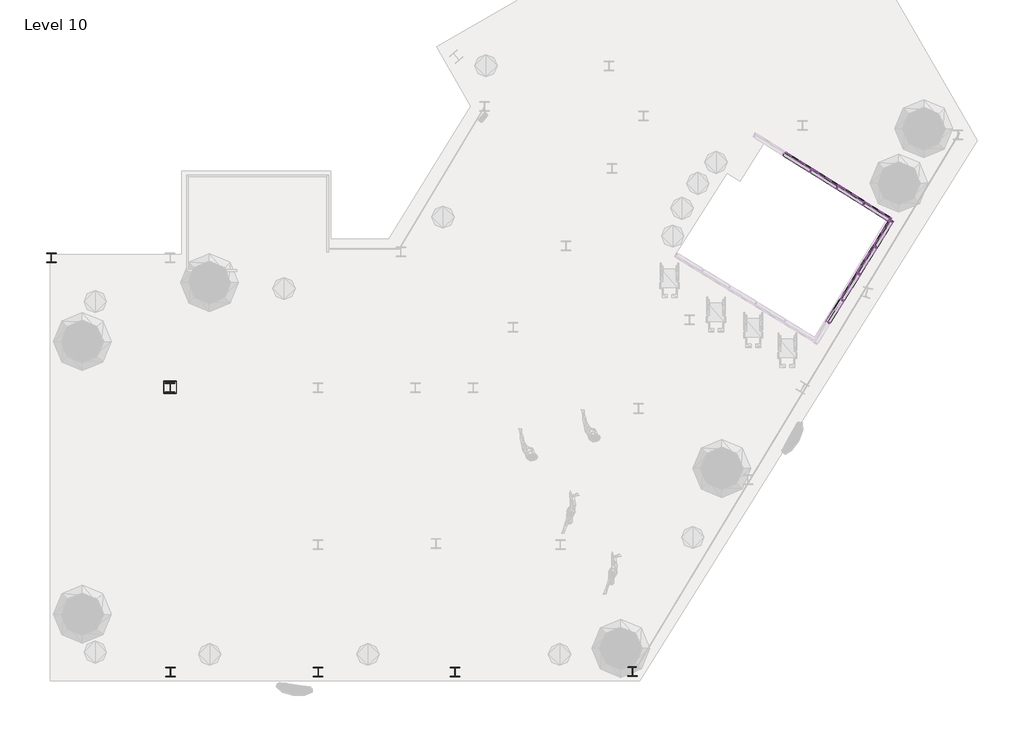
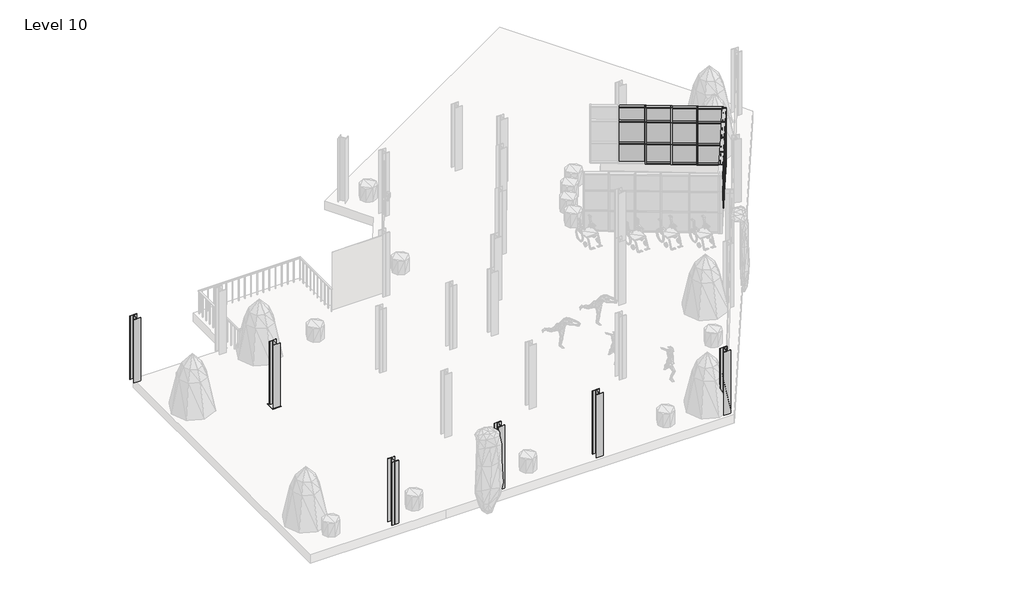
# One storey, part 2 of 3: 56 members, 21 plates, 6 columns, 2 slabs.
"""IFC4 building model written with IfcOpenShell, lengths in millimetres."""

from ifc_helpers import new_model, si_unit, point, frame, frame_2d, origin, place, context, project, spatial, polyline, circle_curve, trimmed, segment, composite_curve, outline, extrude, faceted_brep, transform, mapped, element, save
from components import uc_universal_columns_column_uc305x305x97_d4764252, rectangular_mullion_50x150mm_5f7edc95, rectangular_mullion_50x150mm_20fcdd90, rectangular_mullion_50x150mm_679d726c, rectangular_mullion_50x150mm_bc23d78e, rectangular_mullion_50x150mm_a053b0ca, rectangular_mullion_50x150mm_ca4df42b, rectangular_mullion_50x150mm_2accf0b9, rectangular_mullion_50x150mm_12a430f9, rectangular_mullion_50x150mm_56d806cb, rectangular_mullion_50x150mm_fe9a7969, rectangular_mullion_50x150mm_e1d0520d, rectangular_mullion_50x150mm_eeb28396, rectangular_mullion_50x150mm_6334cb14, rectangular_mullion_50x150mm_1117b5a3, rectangular_mullion_50x150mm_5dbc20ba, rectangular_mullion_50x150mm_edda5b16, rectangular_mullion_50x150mm_e5c03652, rectangular_mullion_50x150mm_65839f64, rectangular_mullion_50x150mm_8fa374aa, rectangular_mullion_50x150mm_e5e7be45, rectangular_mullion_50x150mm_fc7273ca, rectangular_mullion_50x150mm_75b956b0, rectangular_mullion_50x150mm_16176ea9, rectangular_mullion_50x150mm_aeccdc6b, rectangular_mullion_50x150mm_4bf38f89, rectangular_mullion_50x150mm_1ad0b32d, system_panel_glazed_fdfe3bbe, system_panel_glazed_e81f12e8, system_panel_glazed_04ab99c2, system_panel_glazed_16182f7a, system_panel_glazed_1fbc7b21, system_panel_glazed_3a3d5351, system_panel_glazed_2b726c50, system_panel_glazed_9b583dbe, system_panel_glazed_ff157f7a, system_panel_glazed_6ffd8063, system_panel_glazed_c203f92e, system_panel_glazed_67342bc9, system_panel_glazed_2bbda6d5, system_panel_glazed_1cdab955, system_panel_glazed_33a5e53d, system_panel_glazed_0f83ec5b, system_panel_glazed_b95992d0, system_panel_glazed_1ad80228, system_panel_glazed_9f30c024, system_panel_glazed_464895b9, system_panel_glazed_938eb26e

model = new_model("IFC4")

# Units and contexts
model_context = context("Model", 3, world=origin())
ifc_project = project(units=[si_unit("LENGTHUNIT", "METRE", prefix="MILLI")], contexts=[model_context])

# Site, building, storey
site = spatial("IfcSite", under=ifc_project)
building = spatial("IfcBuilding", under=site)
storey = spatial("IfcBuildingStorey", under=building, Name="Level 10", Elevation=15000.0)

# Columns
placement = place(None, origin())
element("IfcColumn", 1, ObjectType="UC-Universal Columns-Column : UC305x305x97", at=placement, inside=storey, context=model_context, shape_type="SweptSolid", body=[
    extrude(outline(composite_curve([segment(polyline([(-3651.7342071, 5352.0048037), (-3651.7342071, 5336.6048037), (-3784.2342071, 5336.6048037)]), True, "CONTINUOUS"), segment(trimmed(circle_curve(frame_2d((-3784.2342071, 5321.4048037)), 15.2), [point((-3784.2342071, 5336.6048037))], [point((-3799.4342071, 5321.4048037))], True, "CARTESIAN"), True, "CONTINUOUS"), segment(polyline([(-3799.4342071, 5321.4048037), (-3799.4342071, 5074.7048037)]), True, "CONTINUOUS"), segment(trimmed(circle_curve(frame_2d((-3784.2342071, 5074.7048037)), 15.2), [point((-3799.4342071, 5074.7048037))], [point((-3784.2342071, 5059.5048037))], True, "CARTESIAN"), True, "CONTINUOUS"), segment(polyline([(-3784.2342071, 5059.5048037), (-3651.7342071, 5059.5048037), (-3651.7342071, 5044.1048037), (-3957.0342071, 5044.1048037), (-3957.0342071, 5059.5048037), (-3824.5342071, 5059.5048037)]), True, "CONTINUOUS"), segment(trimmed(circle_curve(frame_2d((-3824.5342071, 5074.7048037)), 15.2), [point((-3824.5342071, 5059.5048037))], [point((-3809.3342071, 5074.7048037))], True, "CARTESIAN"), True, "CONTINUOUS"), segment(polyline([(-3809.3342071, 5074.7048037), (-3809.3342071, 5321.4048037)]), True, "CONTINUOUS"), segment(trimmed(circle_curve(frame_2d((-3824.5342071, 5321.4048037)), 15.2), [point((-3809.3342071, 5321.4048037))], [point((-3824.5342071, 5336.6048037))], True, "CARTESIAN"), True, "CONTINUOUS"), segment(polyline([(-3824.5342071, 5336.6048037), (-3957.0342071, 5336.6048037), (-3957.0342071, 5352.0048037), (-3651.7342071, 5352.0048037)]), True, "CONTINUOUS")], self_intersect=False)), frame((0.0, 0.0, 15000.0), z_axis=(0.0, 0.0, 1.0), x_axis=(1.0, 0.0, 0.0)), (0.0, 0.0, 1.0), 3000.0),
])
uc_universal_columns_column_uc305x305x97_shape = uc_universal_columns_column_uc305x305x97_d4764252(model_context)
element("IfcColumn", 2, ObjectType="UC-Universal Columns-Column : UC305x305x97", at=placement, inside=storey, context=model_context, shape_type="MappedRepresentation", body=[
    mapped(uc_universal_columns_column_uc305x305x97_shape, transform((-3794.2996481, -3973.717828, 0.0), x_axis=(1.0, 0.0, 0.0), y_axis=(0.0, 1.0, 0.0), z_axis=(0.0, 0.0, 1.0))),
])
element("IfcColumn", 3, ObjectType="UC-Universal Columns-Column : UC305x305x97", at=placement, inside=storey, context=model_context, shape_type="MappedRepresentation", body=[
    mapped(uc_universal_columns_column_uc305x305x97_shape, transform((969.5835478, -3976.3990173, 0.0), x_axis=(1.0, 0.0, 0.0), y_axis=(0.0, 1.0, 0.0), z_axis=(0.0, 0.0, 1.0))),
])
element("IfcColumn", 4, ObjectType="UC-Universal Columns-Column : UC305x305x97", at=placement, inside=storey, context=model_context, shape_type="MappedRepresentation", body=[
    mapped(uc_universal_columns_column_uc305x305x97_shape, transform((5378.0532784, -3976.3990173, 0.0), x_axis=(1.0, 0.0, 0.0), y_axis=(0.0, 1.0, 0.0), z_axis=(0.0, 0.0, 1.0))),
])
element("IfcColumn", 5, ObjectType="UC-Universal Columns-Column : UC305x305x97", at=placement, inside=storey, context=model_context, shape_type="MappedRepresentation", body=[
    mapped(uc_universal_columns_column_uc305x305x97_shape, transform((11102.7776991, -3968.4770737, 0.0), x_axis=(1.0, 0.0, 0.0), y_axis=(0.0, 1.0, 0.0), z_axis=(0.0, 0.0, 1.0))),
])
element("IfcColumn", 6, ObjectType="UC-Universal Columns-Column : UC305x305x97", at=placement, inside=storey, context=model_context, shape_type="MappedRepresentation", body=[
    mapped(uc_universal_columns_column_uc305x305x97_shape, transform((-7639.4484639, 9390.0288254, 0.0), x_axis=(1.0, 0.0, 0.0), y_axis=(0.0, 1.0, 0.0), z_axis=(0.0, 0.0, 1.0))),
])

# Members
rectangular_mullion_50x150mm_shape = rectangular_mullion_50x150mm_5f7edc95(model_context)
element("IfcMember", 7, ObjectType="Rectangular Mullion : 50x150mm", at=placement, inside=storey, context=model_context, shape_type="MappedRepresentation", body=[
    mapped(rectangular_mullion_50x150mm_shape, transform((19437.5664955, 10560.2371413, 17706.8), x_axis=(0.0, 0.0, 1.0), y_axis=(0.8487697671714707, -0.5287625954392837, 0.0), z_axis=(0.5287625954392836, 0.8487697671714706, 0.0))),
])
rectangular_mullion_50x150mm_2_shape = rectangular_mullion_50x150mm_20fcdd90(model_context)
element("IfcMember", 8, ObjectType="Rectangular Mullion : 50x150mm", at=placement, inside=storey, context=model_context, shape_type="MappedRepresentation", body=[
    mapped(rectangular_mullion_50x150mm_2_shape, transform((18934.7371993, 9753.0955084, 15000.0), x_axis=(0.5287625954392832, 0.8487697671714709, 0.0), y_axis=(0.8487697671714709, -0.5287625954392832, 0.0), z_axis=(0.0, 0.0, -1.0))),
])
element("IfcMember", 9, ObjectType="Rectangular Mullion : 50x150mm", at=placement, inside=storey, context=model_context, shape_type="MappedRepresentation", body=[
    mapped(rectangular_mullion_50x150mm_2_shape, transform((18394.6050491, 8886.0753309, 15000.0), x_axis=(0.5287625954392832, 0.8487697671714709, 0.0), y_axis=(0.8487697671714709, -0.5287625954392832, 0.0), z_axis=(0.0, 0.0, -1.0))),
])
element("IfcMember", 10, ObjectType="Rectangular Mullion : 50x150mm", at=placement, inside=storey, context=model_context, shape_type="MappedRepresentation", body=[
    mapped(rectangular_mullion_50x150mm_2_shape, transform((17865.8424537, 8037.3055638, 15000.0), x_axis=(0.5287625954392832, 0.8487697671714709, 0.0), y_axis=(0.8487697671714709, -0.5287625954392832, 0.0), z_axis=(0.0, 0.0, -1.0))),
])
rectangular_mullion_50x150mm_3_shape = rectangular_mullion_50x150mm_679d726c(model_context)
element("IfcMember", 11, ObjectType="Rectangular Mullion : 50x150mm", at=placement, inside=storey, context=model_context, shape_type="MappedRepresentation", body=[
    mapped(rectangular_mullion_50x150mm_3_shape, transform((19437.5664955, 10560.2371413, 16992.1531048), x_axis=(0.0, 0.0, 1.0), y_axis=(0.8487697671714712, -0.5287625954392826, 0.0), z_axis=(0.5287625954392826, 0.8487697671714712, 0.0))),
])
element("IfcMember", 12, ObjectType="Rectangular Mullion : 50x150mm", at=placement, inside=storey, context=model_context, shape_type="MappedRepresentation", body=[
    mapped(rectangular_mullion_50x150mm_3_shape, transform((19437.5664955, 10560.2371413, 15963.2560116), x_axis=(0.0, 0.0, 1.0), y_axis=(0.8487697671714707, -0.5287625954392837, 0.0), z_axis=(0.5287625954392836, 0.8487697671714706, 0.0))),
])
rectangular_mullion_50x150mm_4_shape = rectangular_mullion_50x150mm_bc23d78e(model_context)
element("IfcMember", 13, ObjectType="Rectangular Mullion : 50x150mm", at=placement, inside=storey, context=model_context, shape_type="MappedRepresentation", body=[
    mapped(rectangular_mullion_50x150mm_4_shape, transform((18921.5181344, 9731.8762642, 16992.1531048), x_axis=(0.0, 0.0, 1.0), y_axis=(0.848769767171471, -0.5287625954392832, 0.0), z_axis=(0.5287625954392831, 0.8487697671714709, 0.0))),
])
element("IfcMember", 14, ObjectType="Rectangular Mullion : 50x150mm", at=placement, inside=storey, context=model_context, shape_type="MappedRepresentation", body=[
    mapped(rectangular_mullion_50x150mm_4_shape, transform((18921.5181344, 9731.8762642, 15963.2560116), x_axis=(0.0, 0.0, 1.0), y_axis=(0.848769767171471, -0.5287625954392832, 0.0), z_axis=(0.5287625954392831, 0.8487697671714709, 0.0))),
])
rectangular_mullion_50x150mm_5_shape = rectangular_mullion_50x150mm_a053b0ca(model_context)
element("IfcMember", 15, ObjectType="Rectangular Mullion : 50x150mm", at=placement, inside=storey, context=model_context, shape_type="MappedRepresentation", body=[
    mapped(rectangular_mullion_50x150mm_5_shape, transform((18381.3859842, 8864.8560868, 16992.1531048), x_axis=(0.0, 0.0, 1.0), y_axis=(0.848769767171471, -0.5287625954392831, 0.0), z_axis=(0.5287625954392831, 0.848769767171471, 0.0))),
])
element("IfcMember", 16, ObjectType="Rectangular Mullion : 50x150mm", at=placement, inside=storey, context=model_context, shape_type="MappedRepresentation", body=[
    mapped(rectangular_mullion_50x150mm_5_shape, transform((18381.3859842, 8864.8560868, 15963.2560116), x_axis=(0.0, 0.0, 1.0), y_axis=(0.848769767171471, -0.5287625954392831, 0.0), z_axis=(0.5287625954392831, 0.848769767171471, 0.0))),
])
rectangular_mullion_50x150mm_6_shape = rectangular_mullion_50x150mm_ca4df42b(model_context)
element("IfcMember", 17, ObjectType="Rectangular Mullion : 50x150mm", at=placement, inside=storey, context=model_context, shape_type="MappedRepresentation", body=[
    mapped(rectangular_mullion_50x150mm_6_shape, transform((17852.6233888, 8016.0863196, 16992.1531048), x_axis=(0.0, 0.0, 1.0), y_axis=(0.8487697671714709, -0.5287625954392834, 0.0), z_axis=(0.5287625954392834, 0.8487697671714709, 0.0))),
])
element("IfcMember", 18, ObjectType="Rectangular Mullion : 50x150mm", at=placement, inside=storey, context=model_context, shape_type="MappedRepresentation", body=[
    mapped(rectangular_mullion_50x150mm_6_shape, transform((17852.6233888, 8016.0863196, 15963.2560116), x_axis=(0.0, 0.0, 1.0), y_axis=(0.8487697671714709, -0.5287625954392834, 0.0), z_axis=(0.5287625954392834, 0.8487697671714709, 0.0))),
])
element("IfcMember", 19, ObjectType="Rectangular Mullion : 50x150mm", at=placement, inside=storey, context=model_context, shape_type="MappedRepresentation", body=[
    mapped(rectangular_mullion_50x150mm_shape, transform((18947.9562641, 9774.3147526, 15000.0), x_axis=(0.0, 0.0, -1.0), y_axis=(0.848769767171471, -0.5287625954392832, 0.0), z_axis=(-0.5287625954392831, -0.8487697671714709, 0.0))),
])
rectangular_mullion_50x150mm_7_shape = rectangular_mullion_50x150mm_2accf0b9(model_context)
element("IfcMember", 20, ObjectType="Rectangular Mullion : 50x150mm", at=placement, inside=storey, context=model_context, shape_type="MappedRepresentation", body=[
    mapped(rectangular_mullion_50x150mm_7_shape, transform((18407.824114, 8907.2945751, 15000.0), x_axis=(0.0, 0.0, -1.0), y_axis=(0.8487697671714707, -0.5287625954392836, 0.0), z_axis=(-0.5287625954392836, -0.8487697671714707, 0.0))),
])
rectangular_mullion_50x150mm_8_shape = rectangular_mullion_50x150mm_12a430f9(model_context)
element("IfcMember", 21, ObjectType="Rectangular Mullion : 50x150mm", at=placement, inside=storey, context=model_context, shape_type="MappedRepresentation", body=[
    mapped(rectangular_mullion_50x150mm_8_shape, transform((17879.0615185, 8058.524808, 15000.0), x_axis=(0.0, 0.0, -1.0), y_axis=(0.848769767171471, -0.5287625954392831, 0.0), z_axis=(-0.5287625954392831, -0.848769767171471, 0.0))),
])
element("IfcMember", 22, ObjectType="Rectangular Mullion : 50x150mm", at=placement, inside=storey, context=model_context, shape_type="MappedRepresentation", body=[
    mapped(rectangular_mullion_50x150mm_7_shape, transform((18921.5181344, 9731.8762642, 17706.8), x_axis=(0.0, 0.0, 1.0), y_axis=(0.848769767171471, -0.5287625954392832, 0.0), z_axis=(0.5287625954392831, 0.8487697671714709, 0.0))),
])
element("IfcMember", 23, ObjectType="Rectangular Mullion : 50x150mm", at=placement, inside=storey, context=model_context, shape_type="MappedRepresentation", body=[
    mapped(rectangular_mullion_50x150mm_8_shape, transform((18381.3859842, 8864.8560868, 17706.8), x_axis=(0.0, 0.0, 1.0), y_axis=(0.848769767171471, -0.5287625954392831, 0.0), z_axis=(0.5287625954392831, 0.848769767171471, 0.0))),
])
rectangular_mullion_50x150mm_9_shape = rectangular_mullion_50x150mm_56d806cb(model_context)
element("IfcMember", 24, ObjectType="Rectangular Mullion : 50x150mm", at=placement, inside=storey, context=model_context, shape_type="MappedRepresentation", body=[
    mapped(rectangular_mullion_50x150mm_9_shape, transform((17852.6233888, 8016.0863196, 17706.8), x_axis=(0.0, 0.0, 1.0), y_axis=(0.8487697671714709, -0.5287625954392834, 0.0), z_axis=(0.5287625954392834, 0.8487697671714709, 0.0))),
])
rectangular_mullion_50x150mm_10_shape = rectangular_mullion_50x150mm_fe9a7969(model_context)
element("IfcMember", 25, ObjectType="Rectangular Mullion : 50x150mm", at=placement, inside=storey, context=model_context, shape_type="MappedRepresentation", body=[
    mapped(rectangular_mullion_50x150mm_10_shape, transform((18934.7371993, 9753.0955084, 15963.2560116), x_axis=(0.5287625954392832, 0.8487697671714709, 0.0), y_axis=(0.8487697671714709, -0.5287625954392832, 0.0), z_axis=(0.0, 0.0, -1.0))),
])
element("IfcMember", 26, ObjectType="Rectangular Mullion : 50x150mm", at=placement, inside=storey, context=model_context, shape_type="MappedRepresentation", body=[
    mapped(rectangular_mullion_50x150mm_10_shape, transform((18394.6050491, 8886.0753309, 15963.2560116), x_axis=(0.5287625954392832, 0.8487697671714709, 0.0), y_axis=(0.8487697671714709, -0.5287625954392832, 0.0), z_axis=(0.0, 0.0, -1.0))),
])
element("IfcMember", 27, ObjectType="Rectangular Mullion : 50x150mm", at=placement, inside=storey, context=model_context, shape_type="MappedRepresentation", body=[
    mapped(rectangular_mullion_50x150mm_10_shape, transform((17865.8424537, 8037.3055638, 15963.2560116), x_axis=(0.5287625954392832, 0.8487697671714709, 0.0), y_axis=(0.8487697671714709, -0.5287625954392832, 0.0), z_axis=(0.0, 0.0, -1.0))),
])
element("IfcMember", 28, ObjectType="Rectangular Mullion : 50x150mm", at=placement, inside=storey, context=model_context, shape_type="MappedRepresentation", body=[
    mapped(rectangular_mullion_50x150mm_10_shape, transform((17411.2304728, 7307.56237, 15963.2560116), x_axis=(0.5287625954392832, 0.8487697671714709, 0.0), y_axis=(0.8487697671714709, -0.5287625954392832, 0.0), z_axis=(0.0, 0.0, -1.0))),
])
rectangular_mullion_50x150mm_11_shape = rectangular_mullion_50x150mm_e1d0520d(model_context)
element("IfcMember", 29, ObjectType="Rectangular Mullion : 50x150mm", at=placement, inside=storey, context=model_context, shape_type="MappedRepresentation", body=[
    mapped(rectangular_mullion_50x150mm_11_shape, transform((19464.0046253, 10602.6756296, 15000.0), x_axis=(0.5287625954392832, 0.8487697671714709, 0.0), y_axis=(0.8487697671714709, -0.5287625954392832, 0.0), z_axis=(0.0, 0.0, -1.0))),
])
rectangular_mullion_50x150mm_12_shape = rectangular_mullion_50x150mm_eeb28396(model_context)
element("IfcMember", 30, ObjectType="Rectangular Mullion : 50x150mm", at=placement, inside=storey, context=model_context, shape_type="MappedRepresentation", body=[
    mapped(rectangular_mullion_50x150mm_12_shape, transform((19464.0046253, 10602.6756296, 15963.2560116), x_axis=(0.5287625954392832, 0.8487697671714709, 0.0), y_axis=(0.8487697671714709, -0.5287625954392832, 0.0), z_axis=(0.0, 0.0, -1.0))),
])
rectangular_mullion_50x150mm_13_shape = rectangular_mullion_50x150mm_6334cb14(model_context)
element("IfcMember", 31, ObjectType="Rectangular Mullion : 50x150mm", at=placement, inside=storey, context=model_context, shape_type="MappedRepresentation", body=[
    mapped(rectangular_mullion_50x150mm_13_shape, transform((19382.5129298, 10638.496549, 17700.0), x_axis=(0.0, 0.0, 1.0), y_axis=(-0.5299192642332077, -0.8480480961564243, 0.0), z_axis=(0.8480480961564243, -0.5299192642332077, 0.0))),
])
rectangular_mullion_50x150mm_14_shape = rectangular_mullion_50x150mm_1117b5a3(model_context)
element("IfcMember", 32, ObjectType="Rectangular Mullion : 50x150mm", at=placement, inside=storey, context=model_context, shape_type="MappedRepresentation", body=[
    mapped(rectangular_mullion_50x150mm_14_shape, transform((19382.5129298, 10638.496549, 16995.7532505), x_axis=(0.0, 0.0, 1.0), y_axis=(-0.5299192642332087, -0.8480480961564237, 0.0), z_axis=(0.8480480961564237, -0.5299192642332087, 0.0))),
])
element("IfcMember", 33, ObjectType="Rectangular Mullion : 50x150mm", at=placement, inside=storey, context=model_context, shape_type="MappedRepresentation", body=[
    mapped(rectangular_mullion_50x150mm_14_shape, transform((19382.5129298, 10638.496549, 15948.427975), x_axis=(0.0, 0.0, 1.0), y_axis=(-0.5299192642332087, -0.8480480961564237, 0.0), z_axis=(0.8480480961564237, -0.5299192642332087, 0.0))),
])
rectangular_mullion_50x150mm_15_shape = rectangular_mullion_50x150mm_5dbc20ba(model_context)
element("IfcMember", 34, ObjectType="Rectangular Mullion : 50x150mm", at=placement, inside=storey, context=model_context, shape_type="MappedRepresentation", body=[
    mapped(rectangular_mullion_50x150mm_15_shape, transform((18551.4257956, 11157.8174279, 16995.7532505), x_axis=(0.0, 0.0, 1.0), y_axis=(-0.5299192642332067, -0.848048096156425, 0.0), z_axis=(0.848048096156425, -0.5299192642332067, 0.0))),
])
element("IfcMember", 35, ObjectType="Rectangular Mullion : 50x150mm", at=placement, inside=storey, context=model_context, shape_type="MappedRepresentation", body=[
    mapped(rectangular_mullion_50x150mm_15_shape, transform((17697.2069775, 11691.5925872, 16995.7532505), x_axis=(0.0, 0.0, 1.0), y_axis=(-0.5299192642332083, -0.848048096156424, 0.0), z_axis=(0.848048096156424, -0.5299192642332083, 0.0))),
])
element("IfcMember", 36, ObjectType="Rectangular Mullion : 50x150mm", at=placement, inside=storey, context=model_context, shape_type="MappedRepresentation", body=[
    mapped(rectangular_mullion_50x150mm_15_shape, transform((18551.4257956, 11157.8174279, 15948.427975), x_axis=(0.0, 0.0, 1.0), y_axis=(-0.5299192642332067, -0.848048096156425, 0.0), z_axis=(0.848048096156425, -0.5299192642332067, 0.0))),
])
element("IfcMember", 37, ObjectType="Rectangular Mullion : 50x150mm", at=placement, inside=storey, context=model_context, shape_type="MappedRepresentation", body=[
    mapped(rectangular_mullion_50x150mm_15_shape, transform((17697.2069775, 11691.5925872, 15948.427975), x_axis=(0.0, 0.0, 1.0), y_axis=(-0.5299192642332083, -0.848048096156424, 0.0), z_axis=(0.848048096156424, -0.5299192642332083, 0.0))),
])
rectangular_mullion_50x150mm_16_shape = rectangular_mullion_50x150mm_edda5b16(model_context)
element("IfcMember", 38, ObjectType="Rectangular Mullion : 50x150mm", at=placement, inside=storey, context=model_context, shape_type="MappedRepresentation", body=[
    mapped(rectangular_mullion_50x150mm_16_shape, transform((16842.9451467, 12225.3946238, 16995.7532505), x_axis=(0.0, 0.0, 1.0), y_axis=(-0.5299192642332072, -0.8480480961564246, 0.0), z_axis=(0.8480480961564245, -0.5299192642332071, 0.0))),
])
element("IfcMember", 39, ObjectType="Rectangular Mullion : 50x150mm", at=placement, inside=storey, context=model_context, shape_type="MappedRepresentation", body=[
    mapped(rectangular_mullion_50x150mm_16_shape, transform((16842.9451467, 12225.3946238, 15948.427975), x_axis=(0.0, 0.0, 1.0), y_axis=(-0.5299192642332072, -0.8480480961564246, 0.0), z_axis=(0.8480480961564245, -0.5299192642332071, 0.0))),
])
rectangular_mullion_50x150mm_17_shape = rectangular_mullion_50x150mm_e5c03652(model_context)
element("IfcMember", 40, ObjectType="Rectangular Mullion : 50x150mm", at=placement, inside=storey, context=model_context, shape_type="MappedRepresentation", body=[
    mapped(rectangular_mullion_50x150mm_17_shape, transform((18572.626998, 11144.5694463, 15000.0), x_axis=(0.8480480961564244, -0.5299192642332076, 0.0), y_axis=(-0.5299192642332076, -0.8480480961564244, 0.0), z_axis=(0.0, 0.0, -1.0))),
])
element("IfcMember", 41, ObjectType="Rectangular Mullion : 50x150mm", at=placement, inside=storey, context=model_context, shape_type="MappedRepresentation", body=[
    mapped(rectangular_mullion_50x150mm_17_shape, transform((17718.4081799, 11678.3446056, 15000.0), x_axis=(0.8480480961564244, -0.5299192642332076, 0.0), y_axis=(-0.5299192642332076, -0.8480480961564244, 0.0), z_axis=(0.0, 0.0, -1.0))),
])
element("IfcMember", 42, ObjectType="Rectangular Mullion : 50x150mm", at=placement, inside=storey, context=model_context, shape_type="MappedRepresentation", body=[
    mapped(rectangular_mullion_50x150mm_17_shape, transform((16864.1463491, 12212.1466422, 15000.0), x_axis=(0.8480480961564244, -0.5299192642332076, 0.0), y_axis=(-0.5299192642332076, -0.8480480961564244, 0.0), z_axis=(0.0, 0.0, -1.0))),
])
element("IfcMember", 43, ObjectType="Rectangular Mullion : 50x150mm", at=placement, inside=storey, context=model_context, shape_type="MappedRepresentation", body=[
    mapped(rectangular_mullion_50x150mm_13_shape, transform((18593.8282004, 11131.3214647, 15000.0), x_axis=(0.0, 0.0, -1.0), y_axis=(-0.5299192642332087, -0.8480480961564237, 0.0), z_axis=(-0.8480480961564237, 0.5299192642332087, 0.0))),
])
rectangular_mullion_50x150mm_18_shape = rectangular_mullion_50x150mm_65839f64(model_context)
element("IfcMember", 44, ObjectType="Rectangular Mullion : 50x150mm", at=placement, inside=storey, context=model_context, shape_type="MappedRepresentation", body=[
    mapped(rectangular_mullion_50x150mm_18_shape, transform((17739.6093823, 11665.096624, 15000.0), x_axis=(0.0, 0.0, -1.0), y_axis=(-0.5299192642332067, -0.848048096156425, 0.0), z_axis=(-0.848048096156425, 0.5299192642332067, 0.0))),
])
element("IfcMember", 45, ObjectType="Rectangular Mullion : 50x150mm", at=placement, inside=storey, context=model_context, shape_type="MappedRepresentation", body=[
    mapped(rectangular_mullion_50x150mm_18_shape, transform((16885.3475515, 12198.8986605, 15000.0), x_axis=(0.0, 0.0, -1.0), y_axis=(-0.5299192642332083, -0.848048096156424, 0.0), z_axis=(-0.848048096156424, 0.5299192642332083, 0.0))),
])
element("IfcMember", 46, ObjectType="Rectangular Mullion : 50x150mm", at=placement, inside=storey, context=model_context, shape_type="MappedRepresentation", body=[
    mapped(rectangular_mullion_50x150mm_18_shape, transform((18551.4257956, 11157.8174279, 17700.0), x_axis=(0.0, 0.0, 1.0), y_axis=(-0.5299192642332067, -0.848048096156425, 0.0), z_axis=(0.848048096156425, -0.5299192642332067, 0.0))),
])
element("IfcMember", 47, ObjectType="Rectangular Mullion : 50x150mm", at=placement, inside=storey, context=model_context, shape_type="MappedRepresentation", body=[
    mapped(rectangular_mullion_50x150mm_18_shape, transform((17697.2069775, 11691.5925872, 17700.0), x_axis=(0.0, 0.0, 1.0), y_axis=(-0.5299192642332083, -0.848048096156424, 0.0), z_axis=(0.848048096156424, -0.5299192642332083, 0.0))),
])
rectangular_mullion_50x150mm_19_shape = rectangular_mullion_50x150mm_8fa374aa(model_context)
element("IfcMember", 48, ObjectType="Rectangular Mullion : 50x150mm", at=placement, inside=storey, context=model_context, shape_type="MappedRepresentation", body=[
    mapped(rectangular_mullion_50x150mm_19_shape, transform((16842.9451467, 12225.3946238, 17700.0), x_axis=(0.0, 0.0, 1.0), y_axis=(-0.5299192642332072, -0.8480480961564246, 0.0), z_axis=(0.8480480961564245, -0.5299192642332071, 0.0))),
])
rectangular_mullion_50x150mm_20_shape = rectangular_mullion_50x150mm_e5e7be45(model_context)
element("IfcMember", 49, ObjectType="Rectangular Mullion : 50x150mm", at=placement, inside=storey, context=model_context, shape_type="MappedRepresentation", body=[
    mapped(rectangular_mullion_50x150mm_20_shape, transform((18572.626998, 11144.5694463, 15948.427975), x_axis=(0.8480480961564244, -0.5299192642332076, 0.0), y_axis=(-0.5299192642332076, -0.8480480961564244, 0.0), z_axis=(0.0, 0.0, -1.0))),
])
element("IfcMember", 50, ObjectType="Rectangular Mullion : 50x150mm", at=placement, inside=storey, context=model_context, shape_type="MappedRepresentation", body=[
    mapped(rectangular_mullion_50x150mm_20_shape, transform((17718.4081799, 11678.3446056, 15948.427975), x_axis=(0.8480480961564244, -0.5299192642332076, 0.0), y_axis=(-0.5299192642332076, -0.8480480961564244, 0.0), z_axis=(0.0, 0.0, -1.0))),
])
element("IfcMember", 51, ObjectType="Rectangular Mullion : 50x150mm", at=placement, inside=storey, context=model_context, shape_type="MappedRepresentation", body=[
    mapped(rectangular_mullion_50x150mm_20_shape, transform((16864.1463491, 12212.1466422, 15948.427975), x_axis=(0.8480480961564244, -0.5299192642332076, 0.0), y_axis=(-0.5299192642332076, -0.8480480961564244, 0.0), z_axis=(0.0, 0.0, -1.0))),
])
rectangular_mullion_50x150mm_21_shape = rectangular_mullion_50x150mm_fc7273ca(model_context)
element("IfcMember", 52, ObjectType="Rectangular Mullion : 50x150mm", at=placement, inside=storey, context=model_context, shape_type="MappedRepresentation", body=[
    mapped(rectangular_mullion_50x150mm_21_shape, transform((19424.9153346, 10612.0005858, 15000.0), x_axis=(0.8480480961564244, -0.5299192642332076, 0.0), y_axis=(-0.5299192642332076, -0.8480480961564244, 0.0), z_axis=(0.0, 0.0, -1.0))),
])
rectangular_mullion_50x150mm_22_shape = rectangular_mullion_50x150mm_75b956b0(model_context)
element("IfcMember", 53, ObjectType="Rectangular Mullion : 50x150mm", at=placement, inside=storey, context=model_context, shape_type="MappedRepresentation", body=[
    mapped(rectangular_mullion_50x150mm_22_shape, transform((19424.9153346, 10612.0005858, 15948.427975), x_axis=(0.8480480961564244, -0.5299192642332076, 0.0), y_axis=(-0.5299192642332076, -0.8480480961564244, 0.0), z_axis=(0.0, 0.0, -1.0))),
])
rectangular_mullion_50x150mm_23_shape = rectangular_mullion_50x150mm_16176ea9(model_context)
element("IfcMember", 54, ObjectType="Rectangular Mullion : 50x150mm", at=placement, inside=storey, context=model_context, shape_type="MappedRepresentation", body=[
    mapped(rectangular_mullion_50x150mm_23_shape, transform((18934.7371993, 9753.0955084, 16992.1531048), x_axis=(0.5287625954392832, 0.8487697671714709, 0.0), y_axis=(0.8487697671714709, -0.5287625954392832, 0.0), z_axis=(0.0, 0.0, -1.0))),
])
element("IfcMember", 55, ObjectType="Rectangular Mullion : 50x150mm", at=placement, inside=storey, context=model_context, shape_type="MappedRepresentation", body=[
    mapped(rectangular_mullion_50x150mm_23_shape, transform((18394.6050491, 8886.0753309, 16992.1531048), x_axis=(0.5287625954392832, 0.8487697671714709, 0.0), y_axis=(0.8487697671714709, -0.5287625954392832, 0.0), z_axis=(0.0, 0.0, -1.0))),
])
element("IfcMember", 56, ObjectType="Rectangular Mullion : 50x150mm", at=placement, inside=storey, context=model_context, shape_type="MappedRepresentation", body=[
    mapped(rectangular_mullion_50x150mm_23_shape, transform((17865.8424537, 8037.3055638, 16992.1531048), x_axis=(0.5287625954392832, 0.8487697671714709, 0.0), y_axis=(0.8487697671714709, -0.5287625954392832, 0.0), z_axis=(0.0, 0.0, -1.0))),
])
element("IfcMember", 57, ObjectType="Rectangular Mullion : 50x150mm", at=placement, inside=storey, context=model_context, shape_type="MappedRepresentation", body=[
    mapped(rectangular_mullion_50x150mm_23_shape, transform((17411.2304728, 7307.56237, 16992.1531048), x_axis=(0.5287625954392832, 0.8487697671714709, 0.0), y_axis=(0.8487697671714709, -0.5287625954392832, 0.0), z_axis=(0.0, 0.0, -1.0))),
])
rectangular_mullion_50x150mm_24_shape = rectangular_mullion_50x150mm_aeccdc6b(model_context)
element("IfcMember", 58, ObjectType="Rectangular Mullion : 50x150mm", at=placement, inside=storey, context=model_context, shape_type="MappedRepresentation", body=[
    mapped(rectangular_mullion_50x150mm_24_shape, transform((19464.0046253, 10602.6756296, 16992.1531048), x_axis=(0.5287625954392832, 0.8487697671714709, 0.0), y_axis=(0.8487697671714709, -0.5287625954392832, 0.0), z_axis=(0.0, 0.0, -1.0))),
])
rectangular_mullion_50x150mm_25_shape = rectangular_mullion_50x150mm_4bf38f89(model_context)
element("IfcMember", 59, ObjectType="Rectangular Mullion : 50x150mm", at=placement, inside=storey, context=model_context, shape_type="MappedRepresentation", body=[
    mapped(rectangular_mullion_50x150mm_25_shape, transform((18572.626998, 11144.5694463, 16995.7532505), x_axis=(0.8480480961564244, -0.5299192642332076, 0.0), y_axis=(-0.5299192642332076, -0.8480480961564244, 0.0), z_axis=(0.0, 0.0, -1.0))),
])
element("IfcMember", 60, ObjectType="Rectangular Mullion : 50x150mm", at=placement, inside=storey, context=model_context, shape_type="MappedRepresentation", body=[
    mapped(rectangular_mullion_50x150mm_25_shape, transform((17718.4081799, 11678.3446056, 16995.7532505), x_axis=(0.8480480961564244, -0.5299192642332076, 0.0), y_axis=(-0.5299192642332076, -0.8480480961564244, 0.0), z_axis=(0.0, 0.0, -1.0))),
])
element("IfcMember", 61, ObjectType="Rectangular Mullion : 50x150mm", at=placement, inside=storey, context=model_context, shape_type="MappedRepresentation", body=[
    mapped(rectangular_mullion_50x150mm_25_shape, transform((16864.1463491, 12212.1466422, 16995.7532505), x_axis=(0.8480480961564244, -0.5299192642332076, 0.0), y_axis=(-0.5299192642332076, -0.8480480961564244, 0.0), z_axis=(0.0, 0.0, -1.0))),
])
rectangular_mullion_50x150mm_26_shape = rectangular_mullion_50x150mm_1ad0b32d(model_context)
element("IfcMember", 62, ObjectType="Rectangular Mullion : 50x150mm", at=placement, inside=storey, context=model_context, shape_type="MappedRepresentation", body=[
    mapped(rectangular_mullion_50x150mm_26_shape, transform((19424.9153346, 10612.0005858, 16995.7532505), x_axis=(0.8480480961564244, -0.5299192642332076, 0.0), y_axis=(-0.5299192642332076, -0.8480480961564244, 0.0), z_axis=(0.0, 0.0, -1.0))),
])

# Plates
system_panel_glazed_shape = system_panel_glazed_fdfe3bbe(model_context)
element("IfcPlate", 63, ObjectType="System Panel : Glazed", at=placement, inside=storey, context=model_context, shape_type="MappedRepresentation", body=[
    mapped(system_panel_glazed_shape, transform((19192.7613798, 10167.2759469, 15050.0), x_axis=(0.5287625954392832, 0.8487697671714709, 0.0), y_axis=(-0.8487697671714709, 0.5287625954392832, 0.0), z_axis=(0.0, 0.0, 1.0))),
])
system_panel_glazed_2_shape = system_panel_glazed_e81f12e8(model_context)
element("IfcPlate", 64, ObjectType="System Panel : Glazed", at=placement, inside=storey, context=model_context, shape_type="MappedRepresentation", body=[
    mapped(system_panel_glazed_2_shape, transform((18664.6711242, 9319.5854197, 15050.0), x_axis=(0.5287625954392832, 0.8487697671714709, 0.0), y_axis=(-0.8487697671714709, 0.5287625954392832, 0.0), z_axis=(0.0, 0.0, 1.0))),
])
system_panel_glazed_3_shape = system_panel_glazed_04ab99c2(model_context)
element("IfcPlate", 65, ObjectType="System Panel : Glazed", at=placement, inside=storey, context=model_context, shape_type="MappedRepresentation", body=[
    mapped(system_panel_glazed_3_shape, transform((18130.2237514, 8461.6904474, 15050.0), x_axis=(0.5287625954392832, 0.8487697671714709, 0.0), y_axis=(-0.8487697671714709, 0.5287625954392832, 0.0), z_axis=(0.0, 0.0, 1.0))),
])
system_panel_glazed_4_shape = system_panel_glazed_16182f7a(model_context)
element("IfcPlate", 66, ObjectType="System Panel : Glazed", at=placement, inside=storey, context=model_context, shape_type="MappedRepresentation", body=[
    mapped(system_panel_glazed_4_shape, transform((18130.2237514, 8461.6904474, 15988.2560116), x_axis=(0.5287625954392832, 0.8487697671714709, 0.0), y_axis=(-0.8487697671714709, 0.5287625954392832, 0.0), z_axis=(0.0, 0.0, 1.0))),
])
system_panel_glazed_5_shape = system_panel_glazed_1fbc7b21(model_context)
element("IfcPlate", 67, ObjectType="System Panel : Glazed", at=placement, inside=storey, context=model_context, shape_type="MappedRepresentation", body=[
    mapped(system_panel_glazed_5_shape, transform((18664.6711242, 9319.5854197, 15988.2560116), x_axis=(0.5287625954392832, 0.8487697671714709, 0.0), y_axis=(-0.8487697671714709, 0.5287625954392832, 0.0), z_axis=(0.0, 0.0, 1.0))),
])
system_panel_glazed_6_shape = system_panel_glazed_3a3d5351(model_context)
element("IfcPlate", 68, ObjectType="System Panel : Glazed", at=placement, inside=storey, context=model_context, shape_type="MappedRepresentation", body=[
    mapped(system_panel_glazed_6_shape, transform((19192.7613798, 10167.2759469, 15988.2560116), x_axis=(0.5287625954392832, 0.8487697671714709, 0.0), y_axis=(-0.8487697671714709, 0.5287625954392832, 0.0), z_axis=(0.0, 0.0, 1.0))),
])
system_panel_glazed_7_shape = system_panel_glazed_2b726c50(model_context)
element("IfcPlate", 69, ObjectType="System Panel : Glazed", at=placement, inside=storey, context=model_context, shape_type="MappedRepresentation", body=[
    mapped(system_panel_glazed_7_shape, transform((18988.1705651, 10884.9090068, 15050.0), x_axis=(0.8480480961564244, -0.5299192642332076, 0.0), y_axis=(0.5299192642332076, 0.8480480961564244, 0.0), z_axis=(0.0, 0.0, 1.0))),
])
system_panel_glazed_8_shape = system_panel_glazed_9b583dbe(model_context)
element("IfcPlate", 70, ObjectType="System Panel : Glazed", at=placement, inside=storey, context=model_context, shape_type="MappedRepresentation", body=[
    mapped(system_panel_glazed_8_shape, transform((18988.1705651, 10884.9090068, 15973.427975), x_axis=(0.8480480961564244, -0.5299192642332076, 0.0), y_axis=(0.5299192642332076, 0.8480480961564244, 0.0), z_axis=(0.0, 0.0, 1.0))),
])
system_panel_glazed_9_shape = system_panel_glazed_ff157f7a(model_context)
element("IfcPlate", 71, ObjectType="System Panel : Glazed", at=placement, inside=storey, context=model_context, shape_type="MappedRepresentation", body=[
    mapped(system_panel_glazed_9_shape, transform((18145.517589, 11411.4570259, 15050.0), x_axis=(0.8480480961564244, -0.5299192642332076, 0.0), y_axis=(0.5299192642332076, 0.8480480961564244, 0.0), z_axis=(0.0, 0.0, 1.0))),
])
system_panel_glazed_10_shape = system_panel_glazed_6ffd8063(model_context)
element("IfcPlate", 72, ObjectType="System Panel : Glazed", at=placement, inside=storey, context=model_context, shape_type="MappedRepresentation", body=[
    mapped(system_panel_glazed_10_shape, transform((18145.517589, 11411.4570259, 15973.427975), x_axis=(0.8480480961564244, -0.5299192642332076, 0.0), y_axis=(0.5299192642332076, 0.8480480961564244, 0.0), z_axis=(0.0, 0.0, 1.0))),
])
system_panel_glazed_11_shape = system_panel_glazed_c203f92e(model_context)
element("IfcPlate", 73, ObjectType="System Panel : Glazed", at=placement, inside=storey, context=model_context, shape_type="MappedRepresentation", body=[
    mapped(system_panel_glazed_11_shape, transform((17291.2772645, 11945.2456239, 15050.0), x_axis=(0.8480480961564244, -0.5299192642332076, 0.0), y_axis=(0.5299192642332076, 0.8480480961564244, 0.0), z_axis=(0.0, 0.0, 1.0))),
])
system_panel_glazed_12_shape = system_panel_glazed_67342bc9(model_context)
element("IfcPlate", 74, ObjectType="System Panel : Glazed", at=placement, inside=storey, context=model_context, shape_type="MappedRepresentation", body=[
    mapped(system_panel_glazed_12_shape, transform((17291.2772645, 11945.2456239, 15973.427975), x_axis=(0.8480480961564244, -0.5299192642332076, 0.0), y_axis=(0.5299192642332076, 0.8480480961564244, 0.0), z_axis=(0.0, 0.0, 1.0))),
])
system_panel_glazed_13_shape = system_panel_glazed_2bbda6d5(model_context)
element("IfcPlate", 75, ObjectType="System Panel : Glazed", at=placement, inside=storey, context=model_context, shape_type="MappedRepresentation", body=[
    mapped(system_panel_glazed_13_shape, transform((16417.782954, 12491.0654476, 15050.0), x_axis=(0.8480480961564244, -0.5299192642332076, 0.0), y_axis=(0.5299192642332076, 0.8480480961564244, 0.0), z_axis=(0.0, 0.0, 1.0))),
])
system_panel_glazed_14_shape = system_panel_glazed_1cdab955(model_context)
element("IfcPlate", 76, ObjectType="System Panel : Glazed", at=placement, inside=storey, context=model_context, shape_type="MappedRepresentation", body=[
    mapped(system_panel_glazed_14_shape, transform((16417.782954, 12491.0654476, 15973.427975), x_axis=(0.8480480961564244, -0.5299192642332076, 0.0), y_axis=(0.5299192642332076, 0.8480480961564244, 0.0), z_axis=(0.0, 0.0, 1.0))),
])
system_panel_glazed_15_shape = system_panel_glazed_33a5e53d(model_context)
element("IfcPlate", 77, ObjectType="System Panel : Glazed", at=placement, inside=storey, context=model_context, shape_type="MappedRepresentation", body=[
    mapped(system_panel_glazed_15_shape, transform((18130.2237514, 8461.6904474, 17017.1531048), x_axis=(0.5287625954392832, 0.8487697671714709, 0.0), y_axis=(-0.8487697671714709, 0.5287625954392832, 0.0), z_axis=(0.0, 0.0, 1.0))),
])
system_panel_glazed_16_shape = system_panel_glazed_0f83ec5b(model_context)
element("IfcPlate", 78, ObjectType="System Panel : Glazed", at=placement, inside=storey, context=model_context, shape_type="MappedRepresentation", body=[
    mapped(system_panel_glazed_16_shape, transform((18664.6711242, 9319.5854197, 17017.1531048), x_axis=(0.5287625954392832, 0.8487697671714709, 0.0), y_axis=(-0.8487697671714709, 0.5287625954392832, 0.0), z_axis=(0.0, 0.0, 1.0))),
])
system_panel_glazed_17_shape = system_panel_glazed_b95992d0(model_context)
element("IfcPlate", 79, ObjectType="System Panel : Glazed", at=placement, inside=storey, context=model_context, shape_type="MappedRepresentation", body=[
    mapped(system_panel_glazed_17_shape, transform((19192.7613798, 10167.2759469, 17017.1531048), x_axis=(0.5287625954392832, 0.8487697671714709, 0.0), y_axis=(-0.8487697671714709, 0.5287625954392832, 0.0), z_axis=(0.0, 0.0, 1.0))),
])
system_panel_glazed_18_shape = system_panel_glazed_1ad80228(model_context)
element("IfcPlate", 80, ObjectType="System Panel : Glazed", at=placement, inside=storey, context=model_context, shape_type="MappedRepresentation", body=[
    mapped(system_panel_glazed_18_shape, transform((18988.1705651, 10884.9090068, 17020.7532505), x_axis=(0.8480480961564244, -0.5299192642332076, 0.0), y_axis=(0.5299192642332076, 0.8480480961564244, 0.0), z_axis=(0.0, 0.0, 1.0))),
])
system_panel_glazed_19_shape = system_panel_glazed_9f30c024(model_context)
element("IfcPlate", 81, ObjectType="System Panel : Glazed", at=placement, inside=storey, context=model_context, shape_type="MappedRepresentation", body=[
    mapped(system_panel_glazed_19_shape, transform((18145.517589, 11411.4570259, 17020.7532505), x_axis=(0.8480480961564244, -0.5299192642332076, 0.0), y_axis=(0.5299192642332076, 0.8480480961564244, 0.0), z_axis=(0.0, 0.0, 1.0))),
])
system_panel_glazed_20_shape = system_panel_glazed_464895b9(model_context)
element("IfcPlate", 82, ObjectType="System Panel : Glazed", at=placement, inside=storey, context=model_context, shape_type="MappedRepresentation", body=[
    mapped(system_panel_glazed_20_shape, transform((17291.2772645, 11945.2456239, 17020.7532505), x_axis=(0.8480480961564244, -0.5299192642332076, 0.0), y_axis=(0.5299192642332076, 0.8480480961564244, 0.0), z_axis=(0.0, 0.0, 1.0))),
])
system_panel_glazed_21_shape = system_panel_glazed_938eb26e(model_context)
element("IfcPlate", 83, ObjectType="System Panel : Glazed", at=placement, inside=storey, context=model_context, shape_type="MappedRepresentation", body=[
    mapped(system_panel_glazed_21_shape, transform((16417.782954, 12491.0654476, 17020.7532505), x_axis=(0.8480480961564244, -0.5299192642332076, 0.0), y_axis=(0.5299192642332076, 0.8480480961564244, 0.0), z_axis=(0.0, 0.0, 1.0))),
])

# Slabs
element("IfcSlab", 84, ObjectType="Standard 2", at=placement, inside=storey, context=model_context, shape_type="Brep", body=[
    faceted_brep([(-3608.2798492, 5380.8898166, 14600.0), (-3608.2798492, 5020.8898166, 14600.0), (-3611.1258805, 5020.8898166, 14600.0), (-3988.2798492, 5020.8898166, 14600.0), (-3988.2798492, 5380.8898166, 14600.0), (-3611.1258805, 5380.8898166, 14600.0), (-3608.2798492, 5380.8898166, 15000.0), (-3611.1258805, 5380.8898166, 15000.0), (-3988.2798492, 5380.8898166, 15000.0), (-3988.2798492, 5020.8898166, 15000.0), (-3611.1258805, 5020.8898166, 15000.0), (-3608.2798492, 5020.8898166, 15000.0)], [[[0, 1, 2, 3, 4, 5]], [[6, 7, 8, 9, 10, 11]], [[1, 0, 6, 11]], [[3, 2, 1, 11, 10, 9]], [[4, 3, 9, 8]], [[0, 5, 4, 8, 7, 6]]]),
])
element("IfcSlab", 85, ObjectType="Standard 2", at=placement, inside=storey, context=model_context, shape_type="SweptSolid", body=[
    extrude(outline(polyline([(-4011.1258805, 5412.7251273), (-3611.1258805, 5412.7251273), (-3611.1258805, 5380.8898166), (-3988.2798492, 5380.8898166), (-3988.2798492, 5020.8898166), (-3611.1258805, 5020.8898166), (-3611.1258805, 5012.7251273), (-4011.1258805, 5012.7251273), (-4011.1258805, 5412.7251273)])), frame((0.0, 0.0, 14600.0), z_axis=(0.0, 0.0, 1.0), x_axis=(1.0, 0.0, 0.0)), (0.0, 0.0, 1.0), 400.0),
])

save(model, "model.ifc")
